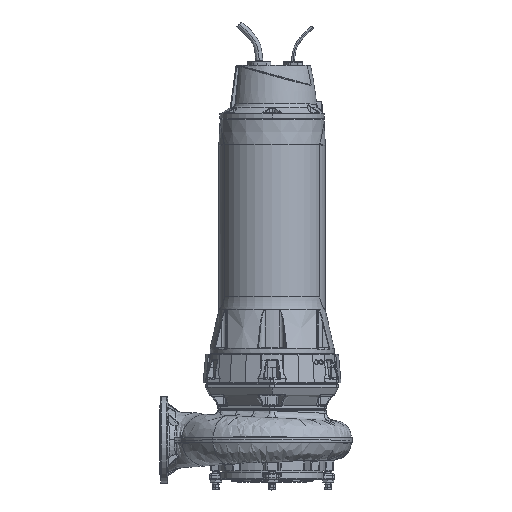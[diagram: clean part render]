
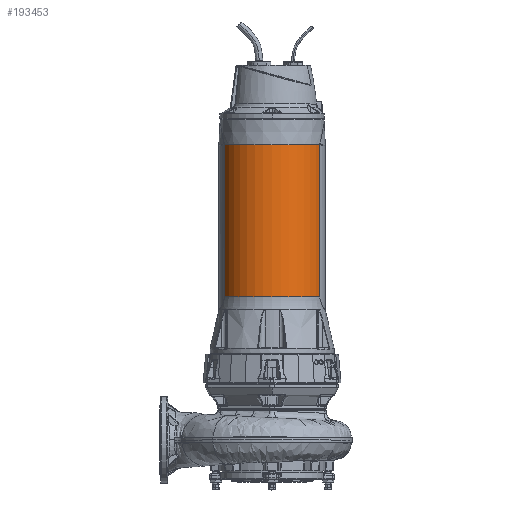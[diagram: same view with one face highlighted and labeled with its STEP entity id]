
A CAD part, top view. The second image highlights one B-rep face of the part: STEP entity #193453.
In plain terms, the highlighted cylindrical face has radius 202 mm (diameter 404 mm), a partial arc.
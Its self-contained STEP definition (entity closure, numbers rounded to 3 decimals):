
#4327 = VERTEX_POINT ( 'NONE', #190304 ) ;
#6916 = VERTEX_POINT ( 'NONE', #66583 ) ;
#8780 = VECTOR ( 'NONE', #58732, 1000. ) ;
#8944 = CARTESIAN_POINT ( 'NONE',  ( -186.075, -106.33, 78.614 ) ) ;
#12258 = DIRECTION ( 'NONE',  ( 0., -1., 0. ) ) ;
#14189 = VERTEX_POINT ( 'NONE', #208259 ) ;
#15512 = AXIS2_PLACEMENT_3D ( 'NONE', #111007, #12258, #127509 ) ;
#17777 = CARTESIAN_POINT ( 'NONE',  ( 0., -106.33, 0. ) ) ;
#20520 = LINE ( 'NONE', #30941, #59230 ) ;
#22859 = EDGE_CURVE ( 'NONE', #151641, #192411, #206374, .T. ) ;
#30799 = CARTESIAN_POINT ( 'NONE',  ( 186.109, 819.468, 78.533 ) ) ;
#30941 = CARTESIAN_POINT ( 'NONE',  ( 186.075, -106.33, 78.614 ) ) ;
#34385 = DIRECTION ( 'NONE',  ( 0., -1., 0. ) ) ;
#47426 = DIRECTION ( 'NONE',  ( 0., 1., 0. ) ) ;
#49993 = CARTESIAN_POINT ( 'NONE',  ( -186.075, 817.381, 78.614 ) ) ;
#58465 = ORIENTED_EDGE ( 'NONE', *, *, #65174, .T. ) ;
#58732 = DIRECTION ( 'NONE',  ( 0., -1., 0. ) ) ;
#59230 = VECTOR ( 'NONE', #47426, 1000. ) ;
#64678 = FACE_OUTER_BOUND ( 'NONE', #161525, .T. ) ;
#65174 = EDGE_CURVE ( 'NONE', #105356, #14189, #96439, .T. ) ;
#66583 = CARTESIAN_POINT ( 'NONE',  ( 186.075, 817.381, 78.614 ) ) ;
#71793 = EDGE_CURVE ( 'NONE', #4327, #14189, #116418, .T. ) ;
#72037 = EDGE_CURVE ( 'NONE', #192411, #105356, #104848, .T. ) ;
#76793 = DIRECTION ( 'NONE',  ( 0., -1., 0. ) ) ;
#79780 = CARTESIAN_POINT ( 'NONE',  ( 186.075, 818.428, 78.614 ) ) ;
#84578 = EDGE_CURVE ( 'NONE', #6916, #151641, #184700, .T. ) ;
#87673 = CARTESIAN_POINT ( 'NONE',  ( -186.176, 820.5, 78.374 ) ) ;
#96439 = LINE ( 'NONE', #8944, #8780 ) ;
#98139 = ORIENTED_EDGE ( 'NONE', *, *, #72037, .T. ) ;
#100635 = DIRECTION ( 'NONE',  ( -1., 0., 0. ) ) ;
#102278 = AXIS2_PLACEMENT_3D ( 'NONE', #17777, #34385, #100635 ) ;
#104848 = B_SPLINE_CURVE_WITH_KNOTS ( 'NONE', 3,
 ( #148529, #132017, #196830, #49993 ),
 .UNSPECIFIED., .F., .F.,
 ( 4, 4 ),
 ( 0., 0.003 ),
 .UNSPECIFIED. ) ;
#105356 = VERTEX_POINT ( 'NONE', #130611 ) ;
#111007 = CARTESIAN_POINT ( 'NONE',  ( 0., 820.5, 0. ) ) ;
#116418 = CIRCLE ( 'NONE', #205233, 202. ) ;
#125060 = ORIENTED_EDGE ( 'NONE', *, *, #129724, .T. ) ;
#127509 = DIRECTION ( 'NONE',  ( -1., 0., 0. ) ) ;
#129724 = EDGE_CURVE ( 'NONE', #4327, #6916, #20520, .T. ) ;
#130611 = CARTESIAN_POINT ( 'NONE',  ( -186.075, 817.381, 78.614 ) ) ;
#131494 = CYLINDRICAL_SURFACE ( 'NONE', #102278, 202. ) ;
#132017 = CARTESIAN_POINT ( 'NONE',  ( -186.109, 819.468, 78.533 ) ) ;
#145860 = CARTESIAN_POINT ( 'NONE',  ( 186.176, 820.5, 78.374 ) ) ;
#148529 = CARTESIAN_POINT ( 'NONE',  ( -186.176, 820.5, 78.374 ) ) ;
#149004 = ORIENTED_EDGE ( 'NONE', *, *, #84578, .T. ) ;
#151641 = VERTEX_POINT ( 'NONE', #183519 ) ;
#161525 = EDGE_LOOP ( 'NONE', ( #98139, #58465, #165075, #125060, #149004, #186541 ) ) ;
#165075 = ORIENTED_EDGE ( 'NONE', *, *, #71793, .F. ) ;
#175310 = CARTESIAN_POINT ( 'NONE',  ( 0., 225.656, 0. ) ) ;
#183519 = CARTESIAN_POINT ( 'NONE',  ( 186.176, 820.5, 78.374 ) ) ;
#184700 = B_SPLINE_CURVE_WITH_KNOTS ( 'NONE', 3,
 ( #211400, #79780, #30799, #145860 ),
 .UNSPECIFIED., .F., .F.,
 ( 4, 4 ),
 ( 0., 0.003 ),
 .UNSPECIFIED. ) ;
#186541 = ORIENTED_EDGE ( 'NONE', *, *, #22859, .T. ) ;
#190304 = CARTESIAN_POINT ( 'NONE',  ( 186.075, 225.656, 78.614 ) ) ;
#191862 = DIRECTION ( 'NONE',  ( -1., 0., 0. ) ) ;
#192411 = VERTEX_POINT ( 'NONE', #87673 ) ;
#193453 = ADVANCED_FACE ( 'NONE', ( #64678 ), #131494, .T. ) ;
#196830 = CARTESIAN_POINT ( 'NONE',  ( -186.075, 818.428, 78.614 ) ) ;
#205233 = AXIS2_PLACEMENT_3D ( 'NONE', #175310, #76793, #191862 ) ;
#206374 = CIRCLE ( 'NONE', #15512, 202. ) ;
#208259 = CARTESIAN_POINT ( 'NONE',  ( -186.075, 225.656, 78.614 ) ) ;
#211400 = CARTESIAN_POINT ( 'NONE',  ( 186.075, 817.381, 78.614 ) ) ;
